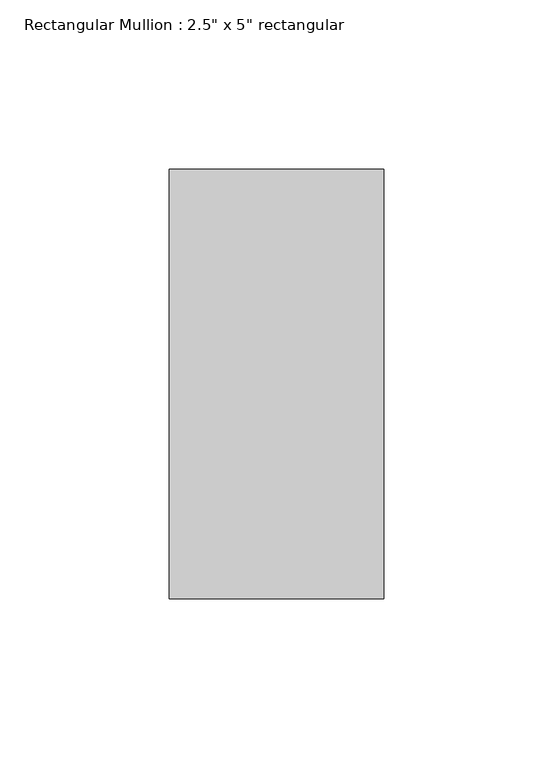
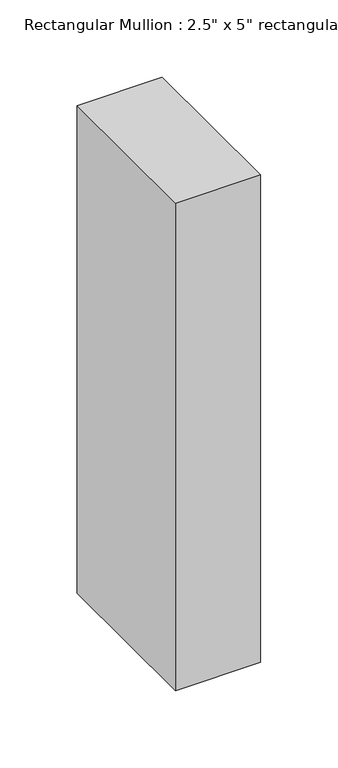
"""IFC4 building model written with IfcOpenShell, lengths in millimetres: member geometry."""

from ifc_helpers import new_model, si_unit, frame, origin, place, context, project, spatial, polyline, outline, extrude, source, transform, mapped, element, save


def member_5d3d0423(model_context):
    return source(origin(), model_context, "Body", "SweptSolid", [
        extrude(outline(polyline([(31.75, 63.5), (31.75, -63.5), (-31.75, -63.5), (-31.75, 63.5), (31.75, 63.5)])), frame((0.0, 0.0, -384.6285714), z_axis=(0.0, 0.0, 1.0), x_axis=(1.0, 0.0, 0.0)), (0.0, 0.0, 1.0), 384.6285714),
    ])


if __name__ == "__main__":
    model = new_model("IFC4")
    model_context = context("Model", 3, world=origin())
    ifc_project = project(units=[si_unit("LENGTHUNIT", "METRE", prefix="MILLI")], contexts=[model_context])
    site = spatial("IfcSite", under=ifc_project)
    building = spatial("IfcBuilding", under=site)
    placement = place(None, origin())
    member_shape = member_5d3d0423(model_context)
    element("IfcMember", 1, ObjectType="Rectangular Mullion : 2.5\" x 5\" rectangular", at=placement, inside=building, context=model_context, shape_type="MappedRepresentation", body=[
        mapped(member_shape, transform((0.0, 0.0, 0.0), x_axis=(1.0, 0.0, 0.0), y_axis=(0.0, 1.0, 0.0), z_axis=(0.0, 0.0, 1.0))),
    ])
    save(model, "model.ifc")
